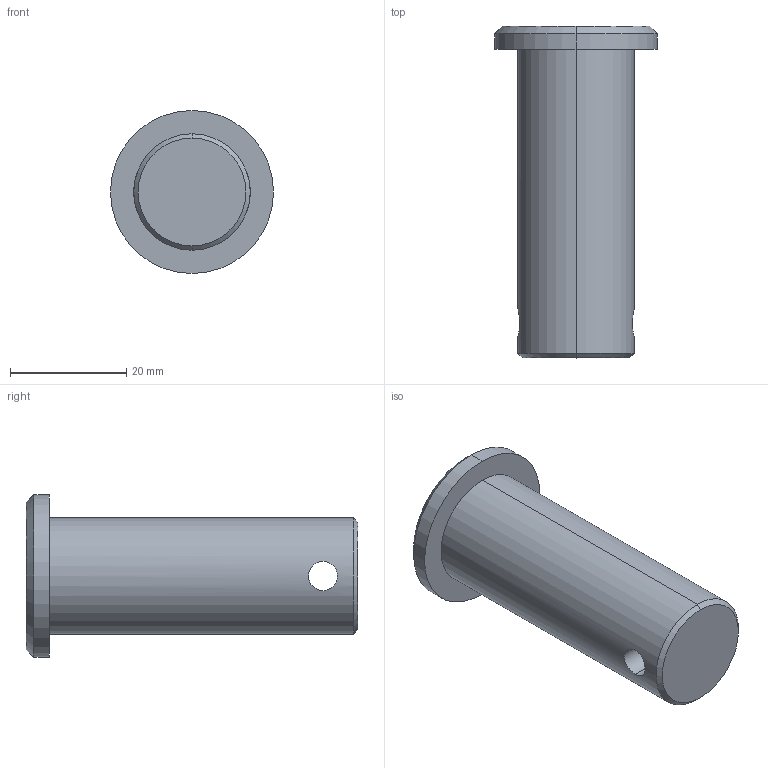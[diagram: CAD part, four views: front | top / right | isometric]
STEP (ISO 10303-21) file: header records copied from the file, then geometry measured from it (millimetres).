
FILE_DESCRIPTION (( 'STEP AP203' ), '1' );
FILE_NAME ('65660.W0120.step', '2023-10-06T09:59:48', ( '' ), ( '' ), 'SwSTEP 2.0', 'SolidWorks 2019', '' );
FILE_SCHEMA (( 'CONFIG_CONTROL_DESIGN' ));
Length unit declared in the file: millimetre
Products named in the file (1): 65660.W0120
Bounding box: 28 x 57 x 28 mm (x, y, z)
Volume: 18630.9 mm3; surface area: 5083.7 mm2
Topology: 1 solids, 1 shells, 13 faces, 26 edges, 16 vertices
Faces by surface type: cylinder 6, cone 4, plane 3
Entity records: 533 total; most frequent: CARTESIAN_POINT 176, DIRECTION 62, ORIENTED_EDGE 52, AXIS2_PLACEMENT_3D 26, EDGE_CURVE 26, EDGE_LOOP 16, VERTEX_POINT 16, FACE_OUTER_BOUND 13
